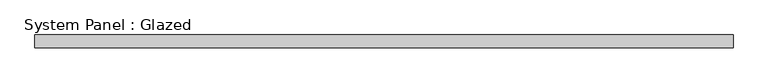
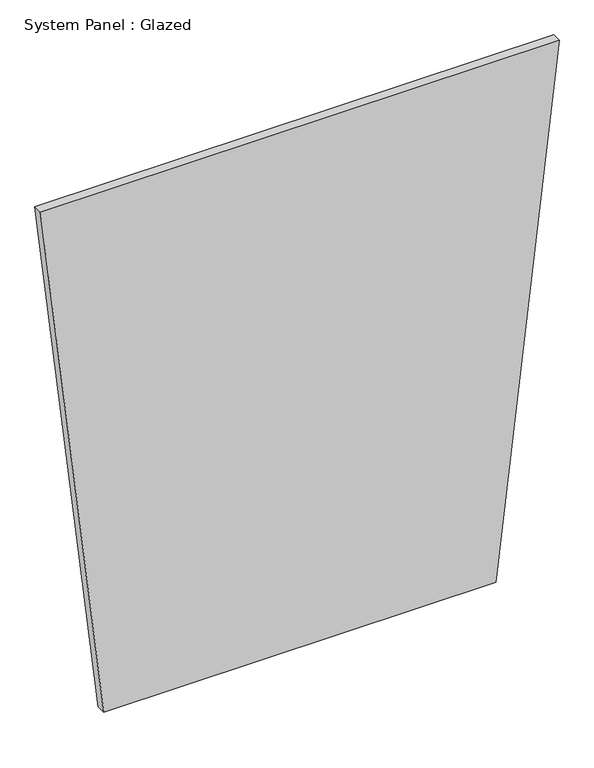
"""IFC4 building model written with IfcOpenShell, lengths in millimetres: plate geometry, System Panel : Glazed."""

from ifc_helpers import new_model, si_unit, frame, origin, place, context, project, spatial, polyline, outline, extrude, source, transform, mapped, element, save


def system_panel_glazed_1b021a4a(model_context):
    return source(origin(), model_context, "Body", "SweptSolid", [
        extrude(outline(polyline([(0.0, -513.3896071), (0.0, 513.3896071), (1440.1823834, 678.9780196), (1440.1823834, -678.9780196), (0.0, -513.3896071)])), frame((0.0, -49.5, 0.0), z_axis=(0.0, 1.0, 0.0), x_axis=(0.0, 0.0, 1.0)), (0.0, 0.0, 1.0), 25.0),
    ])


if __name__ == "__main__":
    model = new_model("IFC4")
    model_context = context("Model", 3, world=origin())
    ifc_project = project(units=[si_unit("LENGTHUNIT", "METRE", prefix="MILLI")], contexts=[model_context])
    site = spatial("IfcSite", under=ifc_project)
    building = spatial("IfcBuilding", under=site)
    placement = place(None, origin())
    system_panel_glazed_shape = system_panel_glazed_1b021a4a(model_context)
    element("IfcPlate", 1, ObjectType="System Panel : Glazed", at=placement, inside=building, context=model_context, shape_type="MappedRepresentation", body=[
        mapped(system_panel_glazed_shape, transform((0.0, 0.0, 0.0), x_axis=(1.0, 0.0, 0.0), y_axis=(0.0, 1.0, 0.0), z_axis=(0.0, 0.0, 1.0))),
    ])
    save(model, "model.ifc")
